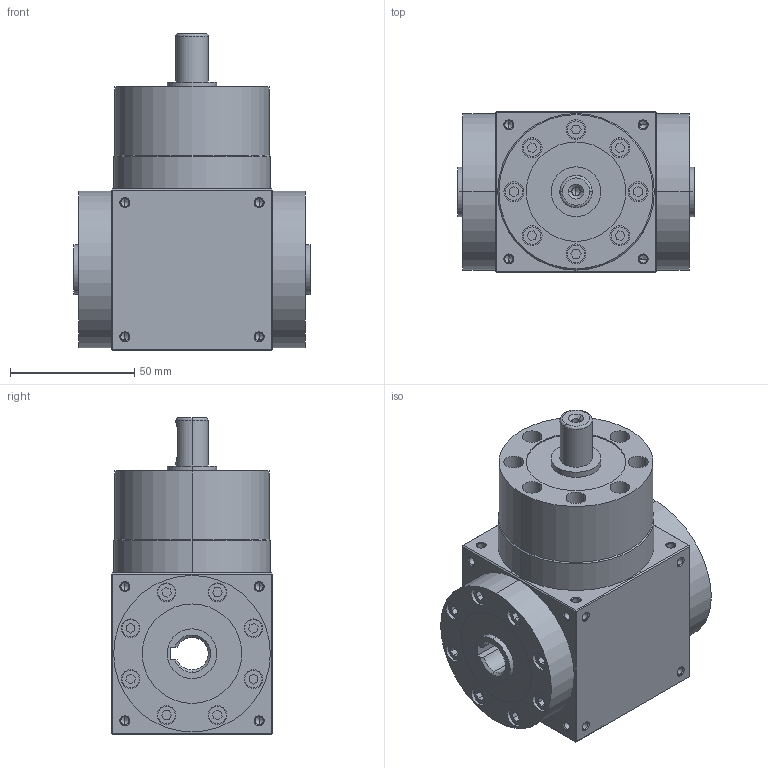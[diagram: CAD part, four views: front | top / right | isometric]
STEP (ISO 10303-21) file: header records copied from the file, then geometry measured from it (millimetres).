
FILE_DESCRIPTION (( 'STEP AP203' ), '1' );
FILE_NAME ('AT065-L1-1-S2-P2.STEP', '2026-04-20T05:57:33', ( 'Windows User' ), ( 'P R C' ), 'SwSTEP 2.0', 'SolidWorks 2016', '' );
FILE_SCHEMA (( 'CONFIG_CONTROL_DESIGN' ));
Length unit declared in the file: millimetre
Products named in the file (3): AT65FH-转角箱体-批量-孔输出; AT065FH-输入端-批量; AT065-L1-1-S2-P2
Assembly tree (2 placements, depth 2):
  AT065-L1-1-S2-P2
    AT65FH-转角箱体-批量-孔输出
    AT065FH-输入端-批量
Bounding box: 95 x 65 x 127.5 mm (x, y, z)
Volume: 351551.7 mm3; surface area: 83612 mm2
Topology: 2 solids, 14 shells, 1313 faces, 3306 edges, 2077 vertices
Faces by surface type: plane 679, cylinder 288, cone 214, bspline 132
Entity records: 44067 total; most frequent: CARTESIAN_POINT 13640, ORIENTED_EDGE 6440, DIRECTION 5748, EDGE_CURVE 3220, VECTOR 2150, LINE 2150, VERTEX_POINT 2077, AXIS2_PLACEMENT_3D 1799
